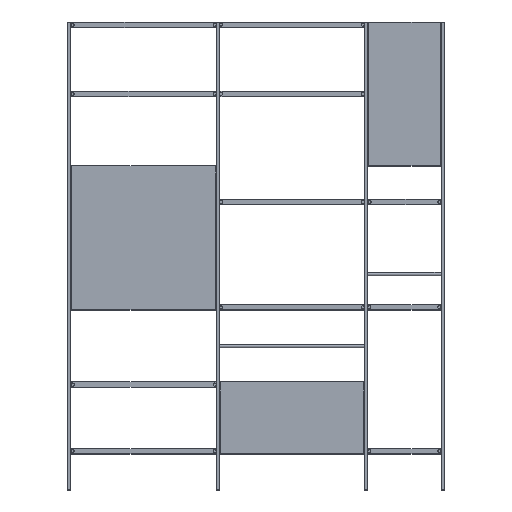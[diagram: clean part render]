
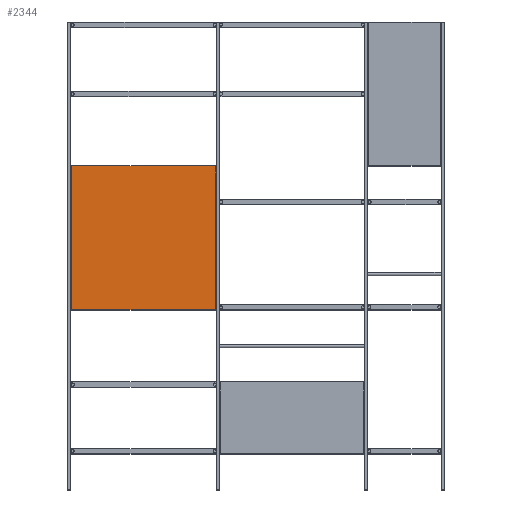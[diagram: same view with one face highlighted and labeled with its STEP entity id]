
A CAD part, top view. The second image highlights one B-rep face of the part: STEP entity #2344.
In plain terms, the highlighted planar face has unit normal (0, 0, 1).
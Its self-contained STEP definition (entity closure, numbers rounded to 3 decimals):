
#538=FACE_OUTER_BOUND('',#688,.T.);
#688=EDGE_LOOP('',(#2009,#2010,#2011,#2012));
#883=LINE('',#3892,#1095);
#886=LINE('',#3898,#1098);
#889=LINE('',#3904,#1101);
#892=LINE('',#3908,#1104);
#1095=VECTOR('',#3154,680.);
#1098=VECTOR('',#3159,680.);
#1101=VECTOR('',#3164,680.);
#1104=VECTOR('',#3169,680.);
#1285=VERTEX_POINT('',#3889);
#1286=VERTEX_POINT('',#3891);
#1288=VERTEX_POINT('',#3897);
#1290=VERTEX_POINT('',#3903);
#1529=EDGE_CURVE('',#1286,#1285,#883,.T.);
#1532=EDGE_CURVE('',#1288,#1286,#886,.T.);
#1535=EDGE_CURVE('',#1290,#1288,#889,.T.);
#1538=EDGE_CURVE('',#1285,#1290,#892,.T.);
#2009=ORIENTED_EDGE('',*,*,#1538,.T.);
#2010=ORIENTED_EDGE('',*,*,#1535,.T.);
#2011=ORIENTED_EDGE('',*,*,#1532,.T.);
#2012=ORIENTED_EDGE('',*,*,#1529,.T.);
#2212=PLANE('',#2561);
#2344=ADVANCED_FACE('',(#538),#2212,.T.);
#2561=AXIS2_PLACEMENT_3D('',#3910,#3172,#3173);
#3154=DIRECTION('',(0.,-1.,0.));
#3159=DIRECTION('',(-1.,0.,0.));
#3164=DIRECTION('',(0.,1.,0.));
#3169=DIRECTION('',(1.,0.,0.));
#3172=DIRECTION('center_axis',(0.,0.,1.));
#3173=DIRECTION('ref_axis',(1.,0.,0.));
#3889=CARTESIAN_POINT('',(-680.,0.,25.));
#3891=CARTESIAN_POINT('',(-680.,680.,25.));
#3892=CARTESIAN_POINT('',(-680.,0.,25.));
#3897=CARTESIAN_POINT('',(0.,680.,25.));
#3898=CARTESIAN_POINT('',(-680.,680.,25.));
#3903=CARTESIAN_POINT('',(0.,0.,25.));
#3904=CARTESIAN_POINT('',(0.,680.,25.));
#3908=CARTESIAN_POINT('',(0.,0.,25.));
#3910=CARTESIAN_POINT('Origin',(-340.,340.,25.));
